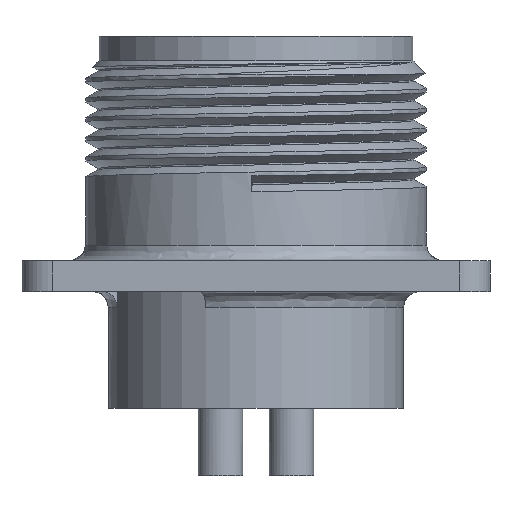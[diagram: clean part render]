
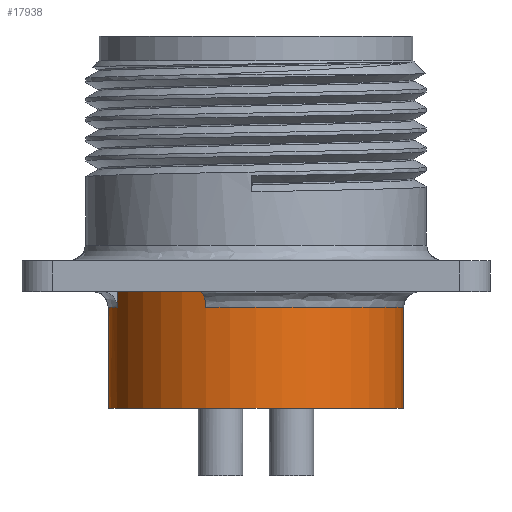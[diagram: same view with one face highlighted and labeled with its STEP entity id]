
A CAD part, front view. The second image highlights one B-rep face of the part: STEP entity #17938.
In plain terms, the highlighted cylindrical face has radius 9.525 mm (diameter 19.05 mm), a partial arc.
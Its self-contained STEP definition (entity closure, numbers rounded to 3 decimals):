
#634 = CARTESIAN_POINT ( 'NONE',  ( -8.951, -3.258, -17.48 ) ) ;
#1629 = CARTESIAN_POINT ( 'NONE',  ( 9.525, 0., -17.48 ) ) ;
#2148 = CARTESIAN_POINT ( 'NONE',  ( 9.525, 0., -24. ) ) ;
#2423 = DIRECTION ( 'NONE',  ( 1., 0., 0. ) ) ;
#3001 = CARTESIAN_POINT ( 'NONE',  ( -3.258, -8.951, -24. ) ) ;
#3131 = ORIENTED_EDGE ( 'NONE', *, *, #7496, .F. ) ;
#4739 = VERTEX_POINT ( 'NONE', #634 ) ;
#5758 = VERTEX_POINT ( 'NONE', #17744 ) ;
#5858 = CARTESIAN_POINT ( 'NONE',  ( 0., 0., -17.48 ) ) ;
#6025 = VERTEX_POINT ( 'NONE', #29540 ) ;
#6741 = EDGE_LOOP ( 'NONE', ( #3131, #24391, #25348, #18260, #28706, #10279, #24704, #30982 ) ) ;
#6851 = LINE ( 'NONE', #28801, #20959 ) ;
#7496 = EDGE_CURVE ( 'NONE', #15725, #6025, #14808, .T. ) ;
#8548 = DIRECTION ( 'NONE',  ( -1., 0., 0. ) ) ;
#8663 = DIRECTION ( 'NONE',  ( 0., 0., 1. ) ) ;
#9252 = DIRECTION ( 'NONE',  ( 1., 0., 0. ) ) ;
#10279 = ORIENTED_EDGE ( 'NONE', *, *, #18118, .F. ) ;
#11080 = DIRECTION ( 'NONE',  ( 0., 0., 1. ) ) ;
#12006 = VECTOR ( 'NONE', #31551, 1000. ) ;
#12023 = CARTESIAN_POINT ( 'NONE',  ( -8.951, -3.258, -15.98 ) ) ;
#12873 = DIRECTION ( 'NONE',  ( 0., 0., -1. ) ) ;
#14610 = CARTESIAN_POINT ( 'NONE',  ( 0., 0., -24. ) ) ;
#14808 = LINE ( 'NONE', #16787, #28974 ) ;
#15040 = AXIS2_PLACEMENT_3D ( 'NONE', #34377, #18400, #2423 ) ;
#15169 = EDGE_CURVE ( 'NONE', #16710, #27801, #21748, .T. ) ;
#15419 = CARTESIAN_POINT ( 'NONE',  ( 0., 0., -24. ) ) ;
#15421 = DIRECTION ( 'NONE',  ( 0., 0., -1. ) ) ;
#15725 = VERTEX_POINT ( 'NONE', #16883 ) ;
#16656 = CYLINDRICAL_SURFACE ( 'NONE', #29994, 9.525 ) ;
#16710 = VERTEX_POINT ( 'NONE', #1629 ) ;
#16787 = CARTESIAN_POINT ( 'NONE',  ( -9.525, 0., -24. ) ) ;
#16804 = LINE ( 'NONE', #3001, #28466 ) ;
#16883 = CARTESIAN_POINT ( 'NONE',  ( -9.525, 0., -24. ) ) ;
#17267 = DIRECTION ( 'NONE',  ( 0., 0., 1. ) ) ;
#17624 = AXIS2_PLACEMENT_3D ( 'NONE', #15419, #34053, #18055 ) ;
#17744 = CARTESIAN_POINT ( 'NONE',  ( -3.258, -8.951, -15.98 ) ) ;
#17938 = ADVANCED_FACE ( 'NONE', ( #24557 ), #16656, .T. ) ;
#18055 = DIRECTION ( 'NONE',  ( 1., 0., 0. ) ) ;
#18118 = EDGE_CURVE ( 'NONE', #29218, #5758, #20378, .T. ) ;
#18260 = ORIENTED_EDGE ( 'NONE', *, *, #15169, .T. ) ;
#18383 = AXIS2_PLACEMENT_3D ( 'NONE', #5858, #24477, #8548 ) ;
#18400 = DIRECTION ( 'NONE',  ( 0., 0., 1. ) ) ;
#19061 = LINE ( 'NONE', #2148, #12006 ) ;
#19340 = CARTESIAN_POINT ( 'NONE',  ( -3.258, -8.951, -17.48 ) ) ;
#19776 = EDGE_CURVE ( 'NONE', #4739, #6025, #33680, .T. ) ;
#20372 = EDGE_CURVE ( 'NONE', #31255, #16710, #19061, .T. ) ;
#20378 = CIRCLE ( 'NONE', #15040, 9.525 ) ;
#20959 = VECTOR ( 'NONE', #15421, 1000. ) ;
#21748 = CIRCLE ( 'NONE', #22108, 9.525 ) ;
#21937 = EDGE_CURVE ( 'NONE', #27801, #5758, #16804, .T. ) ;
#22108 = AXIS2_PLACEMENT_3D ( 'NONE', #28816, #12873, #31504 ) ;
#22802 = EDGE_CURVE ( 'NONE', #29218, #4739, #6851, .T. ) ;
#24391 = ORIENTED_EDGE ( 'NONE', *, *, #27135, .T. ) ;
#24477 = DIRECTION ( 'NONE',  ( 0., 0., -1. ) ) ;
#24557 = FACE_OUTER_BOUND ( 'NONE', #6741, .T. ) ;
#24704 = ORIENTED_EDGE ( 'NONE', *, *, #22802, .T. ) ;
#25348 = ORIENTED_EDGE ( 'NONE', *, *, #20372, .T. ) ;
#27135 = EDGE_CURVE ( 'NONE', #15725, #31255, #31675, .T. ) ;
#27150 = CARTESIAN_POINT ( 'NONE',  ( 9.525, 0., -24. ) ) ;
#27801 = VERTEX_POINT ( 'NONE', #19340 ) ;
#28466 = VECTOR ( 'NONE', #11080, 1000. ) ;
#28706 = ORIENTED_EDGE ( 'NONE', *, *, #21937, .T. ) ;
#28801 = CARTESIAN_POINT ( 'NONE',  ( -8.951, -3.258, -24. ) ) ;
#28816 = CARTESIAN_POINT ( 'NONE',  ( 0., 0., -17.48 ) ) ;
#28974 = VECTOR ( 'NONE', #8663, 1000. ) ;
#29218 = VERTEX_POINT ( 'NONE', #12023 ) ;
#29540 = CARTESIAN_POINT ( 'NONE',  ( -9.525, 0., -17.48 ) ) ;
#29994 = AXIS2_PLACEMENT_3D ( 'NONE', #14610, #17267, #9252 ) ;
#30982 = ORIENTED_EDGE ( 'NONE', *, *, #19776, .T. ) ;
#31255 = VERTEX_POINT ( 'NONE', #27150 ) ;
#31504 = DIRECTION ( 'NONE',  ( -1., 0., 0. ) ) ;
#31551 = DIRECTION ( 'NONE',  ( 0., 0., 1. ) ) ;
#31675 = CIRCLE ( 'NONE', #17624, 9.525 ) ;
#33680 = CIRCLE ( 'NONE', #18383, 9.525 ) ;
#34053 = DIRECTION ( 'NONE',  ( 0., 0., 1. ) ) ;
#34377 = CARTESIAN_POINT ( 'NONE',  ( 0., 0., -15.98 ) ) ;
